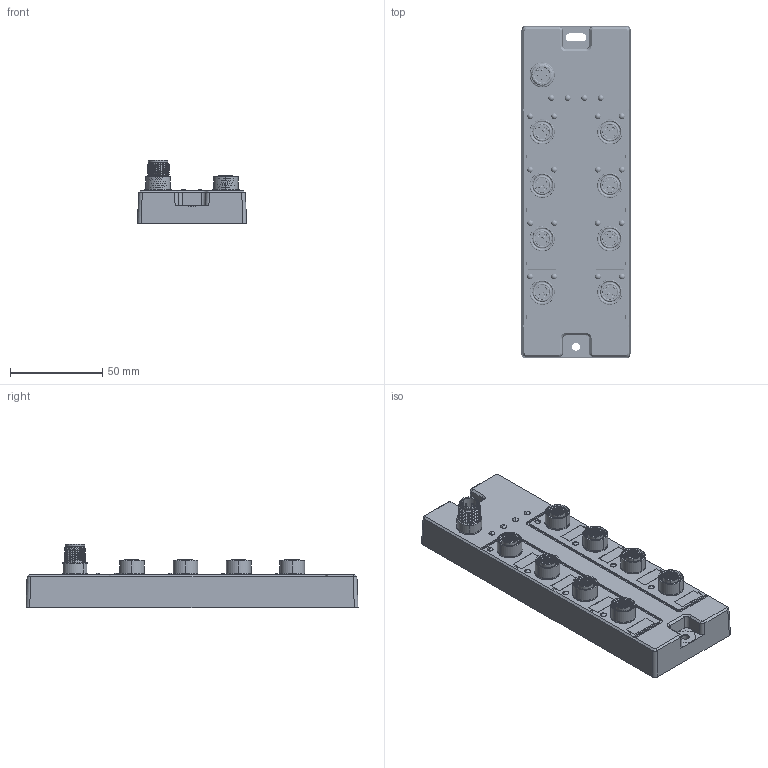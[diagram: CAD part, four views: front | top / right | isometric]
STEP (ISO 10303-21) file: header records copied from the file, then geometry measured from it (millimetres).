
FILE_DESCRIPTION((''),'2;1');
FILE_NAME('_ALL000_ASM_298_ASM_101_ASM_113_ASM','2024-12-27T10:21:12',('Administrator'),('yulong DESIGN'),'CREO PARAMETRIC BY PTC INC, 2021023','CREO PARAMETRIC BY PTC INC, 2021023','');
FILE_SCHEMA(('AUTOMOTIVE_DESIGN { 1 0 10303 214 1 1 1 1 }'));
Length unit declared in the file: millimetre
Products named in the file (9): A000_1052_179_268; G1000106__1_1_1_A_165_101_115; 000_141_101_113; 000_137_103_113; 7_5X1_5-1-SOLID1000_102_113; _90001_33_113; M12A5-0001_ASM_33_ASM_113_ASM; M12A04C-MPBRCU-0040001_112; _ALL000_ASM_298_ASM_101_ASM_113_ASM
Assembly tree (41 placements, depth 3):
  _ALL000_ASM_298_ASM_101_ASM_113_ASM
    A000_1052_179_268
    G1000106__1_1_1_A_165_101_115
    000_141_101_113  x8
    000_137_103_113  x20
    M12A5-0001_ASM_33_ASM_113_ASM  x8
      7_5X1_5-1-SOLID1000_102_113
      _90001_33_113
    M12A04C-MPBRCU-0040001_112
Bounding box: 59.16 x 180.16 x 34.7 mm (x, y, z)
Volume: 197617.9 mm3; surface area: 55609.8 mm2
Topology: 47 solids, 49 shells, 3043 faces, 7505 edges, 4857 vertices
Faces by surface type: plane 1228, cylinder 1031, cone 264, extrusion 188, bspline 152, torus 122, sphere 58
Entity records: 46802 total; most frequent: CARTESIAN_POINT 17155, DIRECTION 4695, ORIENTED_EDGE 4590, EDGE_CURVE 2295, AXIS2_PLACEMENT_3D 1734, PRESENTATION_STYLE_ASSIGNMENT 1603, STYLED_ITEM 1603, VERTEX_POINT 1515
